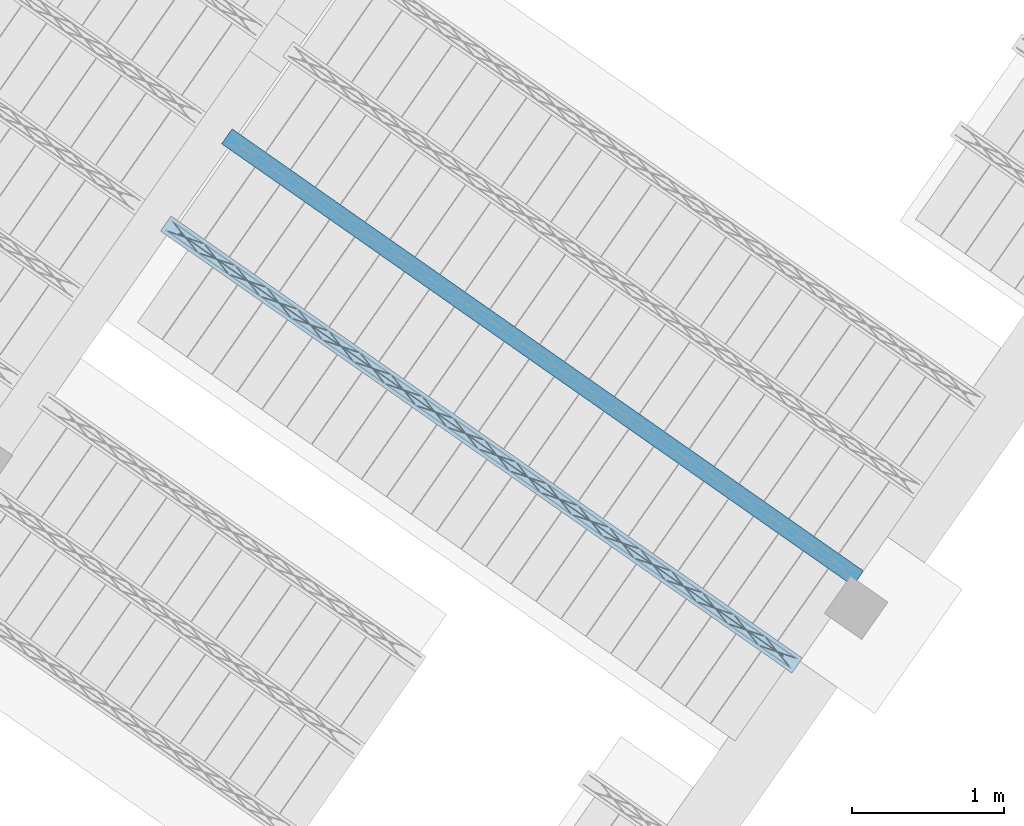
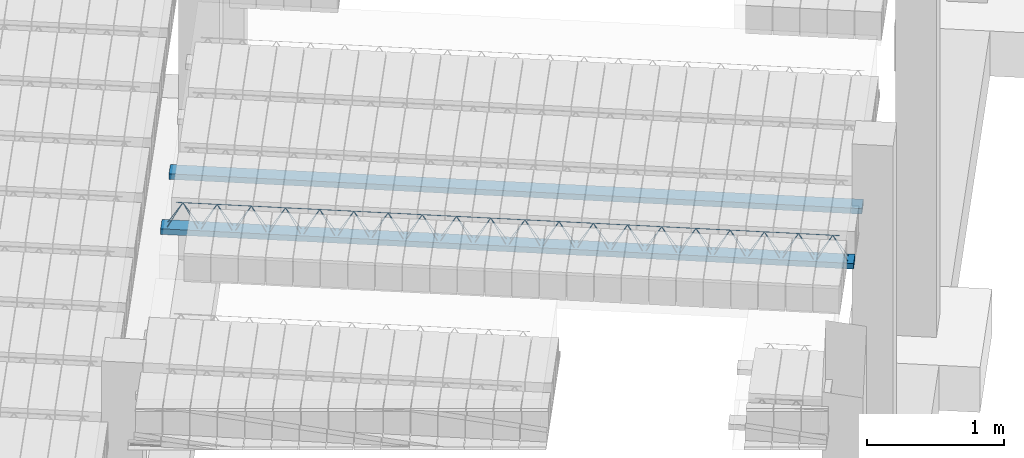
# One storey, part 23 of 80: 2 beams.
"""IFC2X3 building model written with IfcOpenShell, lengths in metres."""

from ifc_helpers import new_model, entity, si_unit, converted_unit, derived_unit, direction, frame, frame_2d, origin, origin_2d_with_axis, place, context, subcontext, project, spatial, rectangle, circle, extrude, material, type_object, element, save


model = new_model("IFC2X3")

# Units and contexts
model_context = context("Model", 3, precision=1e-05, world=origin(), true_north=direction((6.123031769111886e-17, 1.0)))
body_context = subcontext(model_context, "Body", "Model", "MODEL_VIEW")
ifc_project = project(units=[si_unit("LENGTHUNIT", "METRE"), si_unit("AREAUNIT", "SQUARE_METRE"), si_unit("VOLUMEUNIT", "CUBIC_METRE"), converted_unit("PLANEANGLEUNIT", "DEGREE", entity("IfcPlaneAngleMeasure", 0.017453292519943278), si_unit("PLANEANGLEUNIT", "RADIAN"), dimensions=[0, 0, 0, 0, 0, 0, 0]), si_unit("MASSUNIT", "GRAM", prefix="KILO"), derived_unit("MASSDENSITYUNIT", [(si_unit("MASSUNIT", "GRAM", prefix="KILO"), 1), (si_unit("LENGTHUNIT", "METRE"), -3)]), derived_unit("IONCONCENTRATIONUNIT", [(si_unit("MASSUNIT", "GRAM", prefix="KILO"), 1), (si_unit("LENGTHUNIT", "METRE"), -3)]), derived_unit("MOMENTOFINERTIAUNIT", [(si_unit("LENGTHUNIT", "METRE"), 4)]), si_unit("TIMEUNIT", "SECOND"), si_unit("FREQUENCYUNIT", "HERTZ"), si_unit("THERMODYNAMICTEMPERATUREUNIT", "DEGREE_CELSIUS"), derived_unit("THERMALTRANSMITTANCEUNIT", [(si_unit("MASSUNIT", "GRAM", prefix="KILO"), 1), (si_unit("THERMODYNAMICTEMPERATUREUNIT", "KELVIN"), -1), (si_unit("TIMEUNIT", "SECOND"), -3)]), derived_unit("THERMALCONDUCTANCEUNIT", [(si_unit("MASSUNIT", "GRAM", prefix="KILO"), 1), (si_unit("THERMODYNAMICTEMPERATUREUNIT", "KELVIN"), -1), (si_unit("TIMEUNIT", "SECOND"), -3), (si_unit("LENGTHUNIT", "METRE"), 1)]), derived_unit("VOLUMETRICFLOWRATEUNIT", [(si_unit("LENGTHUNIT", "METRE", prefix="DECI"), 3), (si_unit("TIMEUNIT", "SECOND"), -1)]), derived_unit("MASSFLOWRATEUNIT", [(si_unit("MASSUNIT", "GRAM", prefix="KILO"), 1), (si_unit("TIMEUNIT", "SECOND"), -1)]), derived_unit("ROTATIONALFREQUENCYUNIT", [(si_unit("TIMEUNIT", "SECOND"), -1)]), si_unit("ELECTRICCURRENTUNIT", "AMPERE"), si_unit("ELECTRICVOLTAGEUNIT", "VOLT"), si_unit("POWERUNIT", "WATT"), si_unit("FORCEUNIT", "NEWTON", prefix="KILO"), si_unit("ILLUMINANCEUNIT", "LUX"), si_unit("LUMINOUSFLUXUNIT", "LUMEN"), si_unit("LUMINOUSINTENSITYUNIT", "CANDELA"), si_unit("ENERGYUNIT", "JOULE"), derived_unit("USERDEFINED", [(si_unit("MASSUNIT", "GRAM", prefix="KILO"), -1), (si_unit("LENGTHUNIT", "METRE"), -2), (si_unit("TIMEUNIT", "SECOND"), 3), (si_unit("LUMINOUSFLUXUNIT", "LUMEN"), 1)]), derived_unit("USERDEFINED", [(si_unit("MASSUNIT", "GRAM", prefix="KILO"), 1), (si_unit("TIMEUNIT", "SECOND"), -3), (si_unit("LENGTHUNIT", "METRE"), 3), (si_unit("ELECTRICCURRENTUNIT", "AMPERE"), -2)]), derived_unit("SOUNDPOWERUNIT", [(si_unit("MASSUNIT", "GRAM", prefix="KILO"), 1), (si_unit("TIMEUNIT", "SECOND"), -3), (si_unit("LENGTHUNIT", "METRE"), 2)]), derived_unit("SOUNDPRESSUREUNIT", [(si_unit("MASSUNIT", "GRAM", prefix="KILO"), 1), (si_unit("LENGTHUNIT", "METRE"), -1), (si_unit("TIMEUNIT", "SECOND"), -2)]), derived_unit("LINEARVELOCITYUNIT", [(si_unit("LENGTHUNIT", "METRE"), 1), (si_unit("TIMEUNIT", "SECOND"), -1)]), si_unit("PRESSUREUNIT", "PASCAL"), derived_unit("USERDEFINED", [(si_unit("MASSUNIT", "GRAM", prefix="KILO"), 1), (si_unit("LENGTHUNIT", "METRE"), -2), (si_unit("TIMEUNIT", "SECOND"), -2)]), derived_unit("LINEARFORCEUNIT", [(si_unit("MASSUNIT", "GRAM", prefix="KILO"), 1), (si_unit("TIMEUNIT", "SECOND"), -2)]), derived_unit("PLANARFORCEUNIT", [(si_unit("MASSUNIT", "GRAM", prefix="KILO"), 1), (si_unit("LENGTHUNIT", "METRE"), -1), (si_unit("TIMEUNIT", "SECOND"), -2)]), derived_unit("SPECIFICHEATCAPACITYUNIT", [(si_unit("THERMODYNAMICTEMPERATUREUNIT", "KELVIN"), -1), (si_unit("LENGTHUNIT", "METRE"), 2), (si_unit("TIMEUNIT", "SECOND"), -2)]), derived_unit("HEATFLUXDENSITYUNIT", [(si_unit("MASSUNIT", "GRAM", prefix="KILO"), 1), (si_unit("TIMEUNIT", "SECOND"), -3)]), derived_unit("HEATINGVALUEUNIT", [(si_unit("LENGTHUNIT", "METRE"), 2), (si_unit("TIMEUNIT", "SECOND"), -2)]), derived_unit("VAPORPERMEABILITYUNIT", [(si_unit("LENGTHUNIT", "METRE"), -1), (si_unit("TIMEUNIT", "SECOND"), 1)]), derived_unit("DYNAMICVISCOSITYUNIT", [(si_unit("MASSUNIT", "GRAM", prefix="KILO"), 1), (si_unit("TIMEUNIT", "SECOND"), -1), (si_unit("LENGTHUNIT", "METRE"), -1)]), derived_unit("THERMALEXPANSIONCOEFFICIENTUNIT", [(si_unit("THERMODYNAMICTEMPERATUREUNIT", "KELVIN"), -1)]), derived_unit("MODULUSOFELASTICITYUNIT", [(si_unit("MASSUNIT", "GRAM", prefix="KILO"), 1), (si_unit("LENGTHUNIT", "METRE"), -1), (si_unit("TIMEUNIT", "SECOND"), -2)]), derived_unit("ISOTHERMALMOISTURECAPACITYUNIT", [(si_unit("MASSUNIT", "GRAM", prefix="KILO"), -1), (si_unit("LENGTHUNIT", "METRE"), 3)]), derived_unit("MOISTUREDIFFUSIVITYUNIT", [(si_unit("TIMEUNIT", "SECOND"), -1), (si_unit("LENGTHUNIT", "METRE"), 2)]), derived_unit("MASSPERLENGTHUNIT", [(si_unit("MASSUNIT", "GRAM", prefix="KILO"), 1), (si_unit("LENGTHUNIT", "METRE"), -1)]), derived_unit("THERMALRESISTANCEUNIT", [(si_unit("MASSUNIT", "GRAM", prefix="KILO"), -1), (si_unit("TIMEUNIT", "SECOND"), 3), (si_unit("THERMODYNAMICTEMPERATUREUNIT", "KELVIN"), 1)]), derived_unit("ACCELERATIONUNIT", [(si_unit("LENGTHUNIT", "METRE"), 1), (si_unit("TIMEUNIT", "SECOND"), -2)]), derived_unit("ANGULARVELOCITYUNIT", [(si_unit("TIMEUNIT", "SECOND"), -1), (si_unit("PLANEANGLEUNIT", "RADIAN"), 1)]), derived_unit("LINEARSTIFFNESSUNIT", [(si_unit("MASSUNIT", "GRAM", prefix="KILO"), 1), (si_unit("TIMEUNIT", "SECOND"), -2)]), derived_unit("WARPINGCONSTANTUNIT", [(si_unit("LENGTHUNIT", "METRE"), 6)]), derived_unit("LINEARMOMENTUNIT", [(si_unit("MASSUNIT", "GRAM", prefix="KILO"), 1), (si_unit("LENGTHUNIT", "METRE"), 1), (si_unit("TIMEUNIT", "SECOND"), -2)]), derived_unit("TORQUEUNIT", [(si_unit("MASSUNIT", "GRAM", prefix="KILO"), 1), (si_unit("LENGTHUNIT", "METRE"), 2), (si_unit("TIMEUNIT", "SECOND"), -2)])], contexts=[model_context])

# Site, building, storey
site_placement = place(None, origin())
site = spatial("IfcSite", under=ifc_project, at=site_placement, Name="Default", CompositionType="ELEMENT")
building_placement = place(site_placement, origin())
building = spatial("IfcBuilding", under=site, at=building_placement, CompositionType="ELEMENT")
storey_placement = place(building_placement, frame((0.0, 0.0, 95.94)))
storey = spatial("IfcBuildingStorey", under=building, at=storey_placement, Name="PB", CompositionType="ELEMENT", Elevation=95.94)

# Beams
beam_type = type_object("IfcBeamType", Name="Vigueta 1 (Paño 6) (Mf = 33.36)", PredefinedType="JOIST")
beam_1_placement = place(storey_placement, origin())
element("IfcBeam", 1, at=beam_1_placement, inside=storey, type_object=beam_type, Name="Vigueta 1 (Paño 6) (Mf = 33.36)", ObjectType="Mf = 33.36", context=body_context, shape_type="SweptSolid", body=[
    extrude(rectangle(XDim=5.065554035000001, YDim=0.12000000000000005, at=frame_2d((6.661338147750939e-16, 1.3530843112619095e-16), x_axis=(1.0, 0.0))), frame((5.434623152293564, 2.3720998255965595, 3.2799999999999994), z_axis=(0.0, 0.0, 1.0), x_axis=(0.8191520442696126, -0.5735764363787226, 0.0)), (0.0, 0.0, 1.0), 0.04999999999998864),
    extrude(circle(Radius=0.0025, at=origin_2d_with_axis()), frame((3.3589045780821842, 3.7815857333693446, 3.3049999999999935), z_axis=(0.8191520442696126, -0.5735764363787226, 0.0), x_axis=(-0.5735764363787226, -0.8191520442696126, 0.0)), (0.0, 0.0, 1.0), 5.017554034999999),
    extrude(circle(Radius=0.0025, at=origin_2d_with_axis()), frame((3.4481794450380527, 3.763022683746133, 3.5299999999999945), z_axis=(0.8191520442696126, -0.5735764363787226, 0.0), x_axis=(-0.5735764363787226, -0.8191520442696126, 0.0)), (0.0, 0.0, 1.0), 4.849999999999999),
    extrude(circle(Radius=0.0025, at=origin_2d_with_axis()), frame((7.461854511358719, 0.9086692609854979, 3.3049999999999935), z_axis=(-0.3145304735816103, 0.389334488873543, 0.8657304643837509), x_axis=(-0.7778747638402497, -0.6284193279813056, 0.0)), (0.0, 0.0, 1.0), 0.2598961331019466),
    extrude(circle(Radius=0.0025, at=origin_2d_with_axis()), frame((7.257066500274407, 1.052063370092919, 3.3049999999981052), z_axis=(0.47343050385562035, -0.1624017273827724, 0.8657304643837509), x_axis=(-0.3244721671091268, -0.9458952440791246, 0.0)), (0.0, 0.0, 1.0), 0.25989613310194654),
    extrude(circle(Radius=0.0025, at=origin_2d_with_axis()), frame((7.257066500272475, 1.0520633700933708, 3.3049999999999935), z_axis=(-0.3145304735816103, 0.389334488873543, 0.8657304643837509), x_axis=(-0.7778747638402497, -0.6284193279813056, 0.0)), (0.0, 0.0, 1.0), 0.2598961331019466),
    extrude(circle(Radius=0.0025, at=origin_2d_with_axis()), frame((7.052278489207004, 1.1954574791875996, 3.3049999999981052), z_axis=(0.47343050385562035, -0.1624017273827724, 0.8657304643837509), x_axis=(-0.3244721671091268, -0.9458952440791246, 0.0)), (0.0, 0.0, 1.0), 0.25989613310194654),
    extrude(circle(Radius=0.0025, at=origin_2d_with_axis()), frame((7.0522784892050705, 1.1954574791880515, 3.3049999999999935), z_axis=(-0.3145304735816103, 0.389334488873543, 0.8657304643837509), x_axis=(-0.7778747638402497, -0.6284193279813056, 0.0)), (0.0, 0.0, 1.0), 0.2598961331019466),
    extrude(circle(Radius=0.0025, at=origin_2d_with_axis()), frame((6.8474904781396, 1.3388515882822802, 3.3049999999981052), z_axis=(0.47343050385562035, -0.1624017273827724, 0.8657304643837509), x_axis=(-0.3244721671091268, -0.9458952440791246, 0.0)), (0.0, 0.0, 1.0), 0.25989613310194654),
    extrude(circle(Radius=0.0025, at=origin_2d_with_axis()), frame((6.847490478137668, 1.338851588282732, 3.3049999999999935), z_axis=(-0.3145304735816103, 0.389334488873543, 0.8657304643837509), x_axis=(-0.7778747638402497, -0.6284193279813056, 0.0)), (0.0, 0.0, 1.0), 0.2598961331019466),
    extrude(circle(Radius=0.0025, at=origin_2d_with_axis()), frame((6.642702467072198, 1.4822456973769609, 3.3049999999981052), z_axis=(0.47343050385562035, -0.1624017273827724, 0.8657304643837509), x_axis=(-0.3244721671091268, -0.9458952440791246, 0.0)), (0.0, 0.0, 1.0), 0.25989613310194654),
    extrude(circle(Radius=0.0025, at=origin_2d_with_axis()), frame((6.642702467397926, 1.482245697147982, 3.3049999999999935), z_axis=(-0.3145304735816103, 0.389334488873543, 0.8657304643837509), x_axis=(-0.7778747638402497, -0.6284193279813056, 0.0)), (0.0, 0.0, 1.0), 0.2598961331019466),
    extrude(circle(Radius=0.0025, at=origin_2d_with_axis()), frame((6.4379144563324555, 1.6256398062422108, 3.3049999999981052), z_axis=(0.47343050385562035, -0.1624017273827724, 0.8657304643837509), x_axis=(-0.3244721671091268, -0.9458952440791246, 0.0)), (0.0, 0.0, 1.0), 0.25989613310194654),
    extrude(circle(Radius=0.0025, at=origin_2d_with_axis()), frame((6.437914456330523, 1.6256398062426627, 3.3049999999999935), z_axis=(-0.3145304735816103, 0.389334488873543, 0.8657304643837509), x_axis=(-0.7778747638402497, -0.6284193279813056, 0.0)), (0.0, 0.0, 1.0), 0.2598961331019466),
    extrude(circle(Radius=0.0025, at=origin_2d_with_axis()), frame((6.233126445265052, 1.7690339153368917, 3.3049999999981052), z_axis=(0.47343050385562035, -0.1624017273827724, 0.8657304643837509), x_axis=(-0.3244721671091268, -0.9458952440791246, 0.0)), (0.0, 0.0, 1.0), 0.25989613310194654),
    extrude(circle(Radius=0.0025, at=origin_2d_with_axis()), frame((6.23312644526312, 1.7690339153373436, 3.3049999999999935), z_axis=(-0.3145304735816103, 0.389334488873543, 0.8657304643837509), x_axis=(-0.7778747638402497, -0.6284193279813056, 0.0)), (0.0, 0.0, 1.0), 0.2598961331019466),
    extrude(circle(Radius=0.0025, at=origin_2d_with_axis()), frame((6.028338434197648, 1.9124280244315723, 3.3049999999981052), z_axis=(0.47343050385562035, -0.1624017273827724, 0.8657304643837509), x_axis=(-0.3244721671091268, -0.9458952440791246, 0.0)), (0.0, 0.0, 1.0), 0.25989613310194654),
    extrude(circle(Radius=0.0025, at=origin_2d_with_axis()), frame((6.028338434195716, 1.9124280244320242, 3.3049999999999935), z_axis=(-0.3145304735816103, 0.389334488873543, 0.8657304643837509), x_axis=(-0.7778747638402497, -0.6284193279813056, 0.0)), (0.0, 0.0, 1.0), 0.2598961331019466),
    extrude(circle(Radius=0.0025, at=origin_2d_with_axis()), frame((5.8235504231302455, 2.0558221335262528, 3.3049999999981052), z_axis=(0.47343050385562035, -0.1624017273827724, 0.8657304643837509), x_axis=(-0.3244721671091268, -0.9458952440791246, 0.0)), (0.0, 0.0, 1.0), 0.25989613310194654),
    extrude(circle(Radius=0.0025, at=origin_2d_with_axis()), frame((5.823550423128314, 2.055822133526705, 3.3049999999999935), z_axis=(-0.3145304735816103, 0.389334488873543, 0.8657304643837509), x_axis=(-0.7778747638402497, -0.6284193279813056, 0.0)), (0.0, 0.0, 1.0), 0.2598961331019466),
    extrude(circle(Radius=0.0025, at=origin_2d_with_axis()), frame((5.618762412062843, 2.199216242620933, 3.3049999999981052), z_axis=(0.47343050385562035, -0.1624017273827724, 0.8657304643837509), x_axis=(-0.3244721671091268, -0.9458952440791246, 0.0)), (0.0, 0.0, 1.0), 0.25989613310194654),
    extrude(circle(Radius=0.0025, at=origin_2d_with_axis()), frame((5.61876241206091, 2.199216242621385, 3.3049999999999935), z_axis=(-0.3145304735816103, 0.389334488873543, 0.8657304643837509), x_axis=(-0.7778747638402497, -0.6284193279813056, 0.0)), (0.0, 0.0, 1.0), 0.2598961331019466),
    extrude(circle(Radius=0.0025, at=origin_2d_with_axis()), frame((5.413974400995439, 2.342610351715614, 3.3049999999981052), z_axis=(0.47343050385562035, -0.1624017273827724, 0.8657304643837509), x_axis=(-0.3244721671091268, -0.9458952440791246, 0.0)), (0.0, 0.0, 1.0), 0.25989613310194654),
    extrude(circle(Radius=0.0025, at=origin_2d_with_axis()), frame((5.413974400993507, 2.3426103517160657, 3.3049999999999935), z_axis=(-0.3145304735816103, 0.389334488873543, 0.8657304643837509), x_axis=(-0.7778747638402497, -0.6284193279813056, 0.0)), (0.0, 0.0, 1.0), 0.2598961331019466),
    extrude(circle(Radius=0.0025, at=origin_2d_with_axis()), frame((5.209186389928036, 2.486004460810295, 3.3049999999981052), z_axis=(0.47343050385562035, -0.1624017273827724, 0.8657304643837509), x_axis=(-0.3244721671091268, -0.9458952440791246, 0.0)), (0.0, 0.0, 1.0), 0.25989613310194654),
    extrude(circle(Radius=0.0025, at=origin_2d_with_axis()), frame((5.209186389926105, 2.4860044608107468, 3.3049999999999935), z_axis=(-0.3145304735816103, 0.389334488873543, 0.8657304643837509), x_axis=(-0.7778747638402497, -0.6284193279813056, 0.0)), (0.0, 0.0, 1.0), 0.2598961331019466),
    extrude(circle(Radius=0.0025, at=origin_2d_with_axis()), frame((5.004398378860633, 2.6293985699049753, 3.3049999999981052), z_axis=(0.47343050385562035, -0.1624017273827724, 0.8657304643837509), x_axis=(-0.3244721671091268, -0.9458952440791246, 0.0)), (0.0, 0.0, 1.0), 0.25989613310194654),
    extrude(circle(Radius=0.0025, at=origin_2d_with_axis()), frame((5.0043983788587, 2.629398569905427, 3.3049999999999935), z_axis=(-0.3145304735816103, 0.389334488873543, 0.8657304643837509), x_axis=(-0.7778747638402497, -0.6284193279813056, 0.0)), (0.0, 0.0, 1.0), 0.2598961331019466),
    extrude(circle(Radius=0.0025, at=origin_2d_with_axis()), frame((4.799610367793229, 2.7727926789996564, 3.3049999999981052), z_axis=(0.47343050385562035, -0.1624017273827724, 0.8657304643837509), x_axis=(-0.3244721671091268, -0.9458952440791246, 0.0)), (0.0, 0.0, 1.0), 0.25989613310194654),
    extrude(circle(Radius=0.0025, at=origin_2d_with_axis()), frame((4.799610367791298, 2.772792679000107, 3.3049999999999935), z_axis=(-0.3145304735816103, 0.389334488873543, 0.8657304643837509), x_axis=(-0.7778747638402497, -0.6284193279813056, 0.0)), (0.0, 0.0, 1.0), 0.2598961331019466),
    extrude(circle(Radius=0.0025, at=origin_2d_with_axis()), frame((4.594822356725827, 2.916186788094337, 3.3049999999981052), z_axis=(0.47343050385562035, -0.1624017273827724, 0.8657304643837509), x_axis=(-0.3244721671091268, -0.9458952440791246, 0.0)), (0.0, 0.0, 1.0), 0.25989613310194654),
    extrude(circle(Radius=0.0025, at=origin_2d_with_axis()), frame((4.594822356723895, 2.9161867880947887, 3.3049999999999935), z_axis=(-0.3145304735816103, 0.389334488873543, 0.8657304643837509), x_axis=(-0.7778747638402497, -0.6284193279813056, 0.0)), (0.0, 0.0, 1.0), 0.2598961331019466),
    extrude(circle(Radius=0.0025, at=origin_2d_with_axis()), frame((4.390034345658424, 3.0595808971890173, 3.3049999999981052), z_axis=(0.47343050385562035, -0.1624017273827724, 0.8657304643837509), x_axis=(-0.3244721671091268, -0.9458952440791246, 0.0)), (0.0, 0.0, 1.0), 0.25989613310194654),
    extrude(circle(Radius=0.0025, at=origin_2d_with_axis()), frame((4.390034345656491, 3.059580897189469, 3.3049999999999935), z_axis=(-0.3145304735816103, 0.389334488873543, 0.8657304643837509), x_axis=(-0.7778747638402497, -0.6284193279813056, 0.0)), (0.0, 0.0, 1.0), 0.2598961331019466),
    extrude(circle(Radius=0.0025, at=origin_2d_with_axis()), frame((4.185246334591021, 3.202975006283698, 3.3049999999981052), z_axis=(0.47343050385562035, -0.1624017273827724, 0.8657304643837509), x_axis=(-0.3244721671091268, -0.9458952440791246, 0.0)), (0.0, 0.0, 1.0), 0.25989613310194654),
    extrude(circle(Radius=0.0025, at=origin_2d_with_axis()), frame((4.185246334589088, 3.202975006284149, 3.3049999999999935), z_axis=(-0.3145304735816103, 0.389334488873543, 0.8657304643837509), x_axis=(-0.7778747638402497, -0.6284193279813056, 0.0)), (0.0, 0.0, 1.0), 0.2598961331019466),
    extrude(circle(Radius=0.0025, at=origin_2d_with_axis()), frame((3.9804583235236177, 3.3463691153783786, 3.3049999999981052), z_axis=(0.47343050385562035, -0.1624017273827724, 0.8657304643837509), x_axis=(-0.3244721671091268, -0.9458952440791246, 0.0)), (0.0, 0.0, 1.0), 0.25989613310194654),
    extrude(circle(Radius=0.0025, at=origin_2d_with_axis()), frame((3.9804583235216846, 3.34636911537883, 3.3049999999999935), z_axis=(-0.3145304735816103, 0.389334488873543, 0.8657304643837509), x_axis=(-0.7778747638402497, -0.6284193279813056, 0.0)), (0.0, 0.0, 1.0), 0.2598961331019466),
    extrude(circle(Radius=0.0025, at=origin_2d_with_axis()), frame((3.775670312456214, 3.4897632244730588, 3.3049999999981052), z_axis=(0.47343050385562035, -0.1624017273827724, 0.8657304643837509), x_axis=(-0.3244721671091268, -0.9458952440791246, 0.0)), (0.0, 0.0, 1.0), 0.25989613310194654),
    extrude(circle(Radius=0.0025, at=origin_2d_with_axis()), frame((3.775670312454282, 3.489763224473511, 3.3049999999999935), z_axis=(-0.3145304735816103, 0.389334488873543, 0.8657304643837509), x_axis=(-0.7778747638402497, -0.6284193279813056, 0.0)), (0.0, 0.0, 1.0), 0.2598961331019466),
    extrude(circle(Radius=0.0025, at=origin_2d_with_axis()), frame((3.5708823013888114, 3.63315733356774, 3.3049999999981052), z_axis=(0.47343050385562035, -0.1624017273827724, 0.8657304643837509), x_axis=(-0.3244721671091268, -0.9458952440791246, 0.0)), (0.0, 0.0, 1.0), 0.25989613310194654),
    extrude(circle(Radius=0.0025, at=origin_2d_with_axis()), frame((3.5708823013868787, 3.633157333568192, 3.3049999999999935), z_axis=(-0.3145304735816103, 0.389334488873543, 0.8657304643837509), x_axis=(-0.7778747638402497, -0.6284193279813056, 0.0)), (0.0, 0.0, 1.0), 0.2598961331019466),
    extrude(circle(Radius=0.0025, at=origin_2d_with_axis()), frame((3.366094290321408, 3.7765514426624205, 3.3049999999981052), z_axis=(0.47343050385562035, -0.1624017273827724, 0.8657304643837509), x_axis=(-0.3244721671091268, -0.9458952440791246, 0.0)), (0.0, 0.0, 1.0), 0.25989613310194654),
    extrude(circle(Radius=0.0025, at=origin_2d_with_axis()), frame((3.400202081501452, 3.8405646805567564, 3.3049999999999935), z_axis=(0.8191520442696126, -0.5735764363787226, 0.0), x_axis=(-0.5735764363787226, -0.8191520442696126, 0.0)), (0.0, 0.0, 1.0), 5.017554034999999),
    extrude(circle(Radius=0.0025, at=origin_2d_with_axis()), frame((7.503152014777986, 0.96764820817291, 3.3049999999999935), z_axis=(-0.47343050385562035, 0.1624017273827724, 0.8657304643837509), x_axis=(-0.3244721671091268, -0.9458952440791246, 0.0)), (0.0, 0.0, 1.0), 0.25989613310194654),
    extrude(circle(Radius=0.0025, at=origin_2d_with_axis()), frame((7.298364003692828, 1.111042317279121, 3.3049999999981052), z_axis=(0.3145304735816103, -0.389334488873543, 0.8657304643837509), x_axis=(-0.7778747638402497, -0.6284193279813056, 0.0)), (0.0, 0.0, 1.0), 0.2598961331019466),
    extrude(circle(Radius=0.0025, at=origin_2d_with_axis()), frame((7.298364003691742, 1.1110423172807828, 3.3049999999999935), z_axis=(-0.47343050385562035, 0.1624017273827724, 0.8657304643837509), x_axis=(-0.3244721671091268, -0.9458952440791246, 0.0)), (0.0, 0.0, 1.0), 0.25989613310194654),
    extrude(circle(Radius=0.0025, at=origin_2d_with_axis()), frame((7.093575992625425, 1.2544364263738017, 3.3049999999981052), z_axis=(0.3145304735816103, -0.389334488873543, 0.8657304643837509), x_axis=(-0.7778747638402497, -0.6284193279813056, 0.0)), (0.0, 0.0, 1.0), 0.2598961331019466),
    extrude(circle(Radius=0.0025, at=origin_2d_with_axis()), frame((7.093575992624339, 1.2544364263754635, 3.3049999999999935), z_axis=(-0.47343050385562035, 0.1624017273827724, 0.8657304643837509), x_axis=(-0.3244721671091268, -0.9458952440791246, 0.0)), (0.0, 0.0, 1.0), 0.25989613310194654),
    extrude(circle(Radius=0.0025, at=origin_2d_with_axis()), frame((6.888787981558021, 1.3978305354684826, 3.3049999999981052), z_axis=(0.3145304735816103, -0.389334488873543, 0.8657304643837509), x_axis=(-0.7778747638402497, -0.6284193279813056, 0.0)), (0.0, 0.0, 1.0), 0.2598961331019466),
    extrude(circle(Radius=0.0025, at=origin_2d_with_axis()), frame((6.888787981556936, 1.397830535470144, 3.3049999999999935), z_axis=(-0.47343050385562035, 0.1624017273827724, 0.8657304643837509), x_axis=(-0.3244721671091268, -0.9458952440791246, 0.0)), (0.0, 0.0, 1.0), 0.25989613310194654),
    extrude(circle(Radius=0.0025, at=origin_2d_with_axis()), frame((6.683999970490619, 1.541224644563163, 3.3049999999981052), z_axis=(0.3145304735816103, -0.389334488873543, 0.8657304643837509), x_axis=(-0.7778747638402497, -0.6284193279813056, 0.0)), (0.0, 0.0, 1.0), 0.2598961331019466),
    extrude(circle(Radius=0.0025, at=origin_2d_with_axis()), frame((6.683999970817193, 1.5412246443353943, 3.3049999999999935), z_axis=(-0.47343050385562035, 0.1624017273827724, 0.8657304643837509), x_axis=(-0.3244721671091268, -0.9458952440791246, 0.0)), (0.0, 0.0, 1.0), 0.25989613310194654),
    extrude(circle(Radius=0.0025, at=origin_2d_with_axis()), frame((6.479211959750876, 1.684618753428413, 3.3049999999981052), z_axis=(0.3145304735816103, -0.389334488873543, 0.8657304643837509), x_axis=(-0.7778747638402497, -0.6284193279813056, 0.0)), (0.0, 0.0, 1.0), 0.2598961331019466),
    extrude(circle(Radius=0.0025, at=origin_2d_with_axis()), frame((6.47921195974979, 1.684618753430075, 3.3049999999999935), z_axis=(-0.47343050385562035, 0.1624017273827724, 0.8657304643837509), x_axis=(-0.3244721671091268, -0.9458952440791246, 0.0)), (0.0, 0.0, 1.0), 0.25989613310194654),
    extrude(circle(Radius=0.0025, at=origin_2d_with_axis()), frame((6.274423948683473, 1.8280128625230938, 3.3049999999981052), z_axis=(0.3145304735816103, -0.389334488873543, 0.8657304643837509), x_axis=(-0.7778747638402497, -0.6284193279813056, 0.0)), (0.0, 0.0, 1.0), 0.2598961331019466),
    extrude(circle(Radius=0.0025, at=origin_2d_with_axis()), frame((6.274423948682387, 1.8280128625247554, 3.3049999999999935), z_axis=(-0.47343050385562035, 0.1624017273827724, 0.8657304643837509), x_axis=(-0.3244721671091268, -0.9458952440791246, 0.0)), (0.0, 0.0, 1.0), 0.25989613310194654),
    extrude(circle(Radius=0.0025, at=origin_2d_with_axis()), frame((6.069635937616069, 1.9714069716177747, 3.3049999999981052), z_axis=(0.3145304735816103, -0.389334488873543, 0.8657304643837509), x_axis=(-0.7778747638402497, -0.6284193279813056, 0.0)), (0.0, 0.0, 1.0), 0.2598961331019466),
    extrude(circle(Radius=0.0025, at=origin_2d_with_axis()), frame((6.069635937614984, 1.9714069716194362, 3.3049999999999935), z_axis=(-0.47343050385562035, 0.1624017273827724, 0.8657304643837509), x_axis=(-0.3244721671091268, -0.9458952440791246, 0.0)), (0.0, 0.0, 1.0), 0.25989613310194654),
    extrude(circle(Radius=0.0025, at=origin_2d_with_axis()), frame((5.864847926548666, 2.114801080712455, 3.3049999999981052), z_axis=(0.3145304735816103, -0.389334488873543, 0.8657304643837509), x_axis=(-0.7778747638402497, -0.6284193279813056, 0.0)), (0.0, 0.0, 1.0), 0.2598961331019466),
    extrude(circle(Radius=0.0025, at=origin_2d_with_axis()), frame((5.864847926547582, 2.1148010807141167, 3.3049999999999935), z_axis=(-0.47343050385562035, 0.1624017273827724, 0.8657304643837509), x_axis=(-0.3244721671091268, -0.9458952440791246, 0.0)), (0.0, 0.0, 1.0), 0.25989613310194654),
    extrude(circle(Radius=0.0025, at=origin_2d_with_axis()), frame((5.660059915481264, 2.258195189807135, 3.3049999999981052), z_axis=(0.3145304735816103, -0.389334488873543, 0.8657304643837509), x_axis=(-0.7778747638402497, -0.6284193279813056, 0.0)), (0.0, 0.0, 1.0), 0.2598961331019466),
    extrude(circle(Radius=0.0025, at=origin_2d_with_axis()), frame((5.660059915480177, 2.2581951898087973, 3.3049999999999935), z_axis=(-0.47343050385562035, 0.1624017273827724, 0.8657304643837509), x_axis=(-0.3244721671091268, -0.9458952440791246, 0.0)), (0.0, 0.0, 1.0), 0.25989613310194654),
    extrude(circle(Radius=0.0025, at=origin_2d_with_axis()), frame((5.45527190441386, 2.401589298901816, 3.3049999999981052), z_axis=(0.3145304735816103, -0.389334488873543, 0.8657304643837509), x_axis=(-0.7778747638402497, -0.6284193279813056, 0.0)), (0.0, 0.0, 1.0), 0.2598961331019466),
    extrude(circle(Radius=0.0025, at=origin_2d_with_axis()), frame((5.455271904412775, 2.401589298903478, 3.3049999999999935), z_axis=(-0.47343050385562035, 0.1624017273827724, 0.8657304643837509), x_axis=(-0.3244721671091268, -0.9458952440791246, 0.0)), (0.0, 0.0, 1.0), 0.25989613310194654),
    extrude(circle(Radius=0.0025, at=origin_2d_with_axis()), frame((5.250483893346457, 2.544983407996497, 3.3049999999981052), z_axis=(0.3145304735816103, -0.389334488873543, 0.8657304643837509), x_axis=(-0.7778747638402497, -0.6284193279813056, 0.0)), (0.0, 0.0, 1.0), 0.2598961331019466),
    extrude(circle(Radius=0.0025, at=origin_2d_with_axis()), frame((5.250483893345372, 2.5449834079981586, 3.3049999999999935), z_axis=(-0.47343050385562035, 0.1624017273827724, 0.8657304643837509), x_axis=(-0.3244721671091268, -0.9458952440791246, 0.0)), (0.0, 0.0, 1.0), 0.25989613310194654),
    extrude(circle(Radius=0.0025, at=origin_2d_with_axis()), frame((5.045695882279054, 2.6883775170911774, 3.3049999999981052), z_axis=(0.3145304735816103, -0.389334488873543, 0.8657304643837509), x_axis=(-0.7778747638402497, -0.6284193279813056, 0.0)), (0.0, 0.0, 1.0), 0.2598961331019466),
    extrude(circle(Radius=0.0025, at=origin_2d_with_axis()), frame((5.045695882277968, 2.688377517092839, 3.3049999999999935), z_axis=(-0.47343050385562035, 0.1624017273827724, 0.8657304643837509), x_axis=(-0.3244721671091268, -0.9458952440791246, 0.0)), (0.0, 0.0, 1.0), 0.25989613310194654),
    extrude(circle(Radius=0.0025, at=origin_2d_with_axis()), frame((4.84090787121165, 2.831771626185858, 3.3049999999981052), z_axis=(0.3145304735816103, -0.389334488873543, 0.8657304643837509), x_axis=(-0.7778747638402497, -0.6284193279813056, 0.0)), (0.0, 0.0, 1.0), 0.2598961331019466),
    extrude(circle(Radius=0.0025, at=origin_2d_with_axis()), frame((4.8409078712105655, 2.83177162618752, 3.3049999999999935), z_axis=(-0.47343050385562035, 0.1624017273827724, 0.8657304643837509), x_axis=(-0.3244721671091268, -0.9458952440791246, 0.0)), (0.0, 0.0, 1.0), 0.25989613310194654),
    extrude(circle(Radius=0.0025, at=origin_2d_with_axis()), frame((4.636119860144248, 2.975165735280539, 3.3049999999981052), z_axis=(0.3145304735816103, -0.389334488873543, 0.8657304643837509), x_axis=(-0.7778747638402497, -0.6284193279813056, 0.0)), (0.0, 0.0, 1.0), 0.2598961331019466),
    extrude(circle(Radius=0.0025, at=origin_2d_with_axis()), frame((4.636119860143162, 2.9751657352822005, 3.3049999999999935), z_axis=(-0.47343050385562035, 0.1624017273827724, 0.8657304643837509), x_axis=(-0.3244721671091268, -0.9458952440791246, 0.0)), (0.0, 0.0, 1.0), 0.25989613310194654),
    extrude(circle(Radius=0.0025, at=origin_2d_with_axis()), frame((4.4313318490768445, 3.1185598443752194, 3.3049999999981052), z_axis=(0.3145304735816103, -0.389334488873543, 0.8657304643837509), x_axis=(-0.7778747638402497, -0.6284193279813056, 0.0)), (0.0, 0.0, 1.0), 0.2598961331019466),
    extrude(circle(Radius=0.0025, at=origin_2d_with_axis()), frame((4.431331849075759, 3.118559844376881, 3.3049999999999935), z_axis=(-0.47343050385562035, 0.1624017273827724, 0.8657304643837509), x_axis=(-0.3244721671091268, -0.9458952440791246, 0.0)), (0.0, 0.0, 1.0), 0.25989613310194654),
    extrude(circle(Radius=0.0025, at=origin_2d_with_axis()), frame((4.226543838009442, 3.2619539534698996, 3.3049999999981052), z_axis=(0.3145304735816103, -0.389334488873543, 0.8657304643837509), x_axis=(-0.7778747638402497, -0.6284193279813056, 0.0)), (0.0, 0.0, 1.0), 0.2598961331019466),
    extrude(circle(Radius=0.0025, at=origin_2d_with_axis()), frame((4.2265438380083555, 3.261953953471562, 3.3049999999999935), z_axis=(-0.47343050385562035, 0.1624017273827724, 0.8657304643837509), x_axis=(-0.3244721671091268, -0.9458952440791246, 0.0)), (0.0, 0.0, 1.0), 0.25989613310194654),
    extrude(circle(Radius=0.0025, at=origin_2d_with_axis()), frame((4.021755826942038, 3.4053480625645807, 3.3049999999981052), z_axis=(0.3145304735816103, -0.389334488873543, 0.8657304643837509), x_axis=(-0.7778747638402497, -0.6284193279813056, 0.0)), (0.0, 0.0, 1.0), 0.2598961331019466),
    extrude(circle(Radius=0.0025, at=origin_2d_with_axis()), frame((4.021755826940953, 3.405348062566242, 3.3049999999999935), z_axis=(-0.47343050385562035, 0.1624017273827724, 0.8657304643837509), x_axis=(-0.3244721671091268, -0.9458952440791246, 0.0)), (0.0, 0.0, 1.0), 0.25989613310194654),
    extrude(circle(Radius=0.0025, at=origin_2d_with_axis()), frame((3.816967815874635, 3.548742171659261, 3.3049999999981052), z_axis=(0.3145304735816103, -0.389334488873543, 0.8657304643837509), x_axis=(-0.7778747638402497, -0.6284193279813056, 0.0)), (0.0, 0.0, 1.0), 0.2598961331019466),
    extrude(circle(Radius=0.0025, at=origin_2d_with_axis()), frame((3.8169678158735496, 3.548742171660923, 3.3049999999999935), z_axis=(-0.47343050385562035, 0.1624017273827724, 0.8657304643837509), x_axis=(-0.3244721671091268, -0.9458952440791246, 0.0)), (0.0, 0.0, 1.0), 0.25989613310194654),
    extrude(circle(Radius=0.0025, at=origin_2d_with_axis()), frame((3.612179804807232, 3.6921362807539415, 3.3049999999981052), z_axis=(0.3145304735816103, -0.389334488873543, 0.8657304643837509), x_axis=(-0.7778747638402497, -0.6284193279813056, 0.0)), (0.0, 0.0, 1.0), 0.2598961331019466),
    extrude(circle(Radius=0.0025, at=origin_2d_with_axis()), frame((3.612179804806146, 3.6921362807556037, 3.3049999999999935), z_axis=(-0.47343050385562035, 0.1624017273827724, 0.8657304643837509), x_axis=(-0.3244721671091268, -0.9458952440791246, 0.0)), (0.0, 0.0, 1.0), 0.25989613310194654),
    extrude(circle(Radius=0.0025, at=origin_2d_with_axis()), frame((3.407391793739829, 3.8355303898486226, 3.3049999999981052), z_axis=(0.3145304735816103, -0.389334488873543, 0.8657304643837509), x_axis=(-0.7778747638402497, -0.6284193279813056, 0.0)), (0.0, 0.0, 1.0), 0.2598961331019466),
])
ifc_material = material(Name="Hormigón armado")
beam_2_placement = place(storey_placement, origin())
element("IfcBeam", 2, at=beam_2_placement, inside=storey, material=ifc_material, Name="238437", context=body_context, shape_type="SweptSolid", body=[
    extrude(rectangle(XDim=0.04999999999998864, YDim=0.11999999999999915, at=origin_2d_with_axis()), frame((3.7613971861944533, 4.398247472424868, 3.3049999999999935), z_axis=(0.8191520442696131, -0.5735764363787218, 0.0), x_axis=(0.0, 0.0, -1.0)), (0.0, 0.0, 1.0), 5.065554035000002),
])

save(model, "model.ifc")
